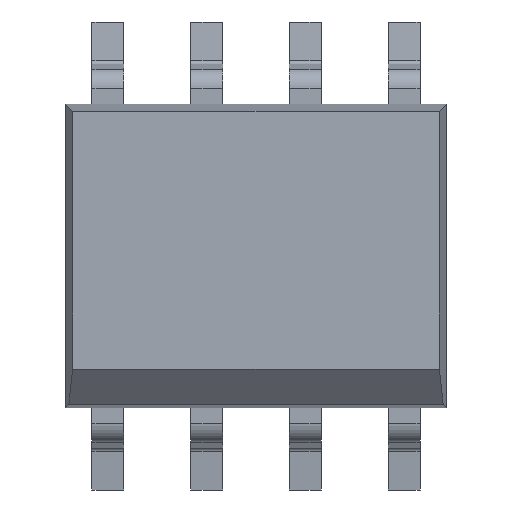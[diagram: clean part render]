
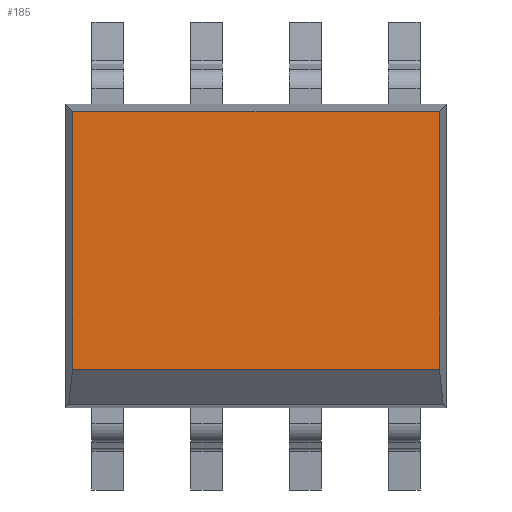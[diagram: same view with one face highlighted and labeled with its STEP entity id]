
A CAD part, top view. The second image highlights one B-rep face of the part: STEP entity #185.
In plain terms, the highlighted planar face has unit normal (0, 0, 1).
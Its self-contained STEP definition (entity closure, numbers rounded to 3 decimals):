
#74 = VERTEX_POINT('',#75);
#75 = CARTESIAN_POINT('',(-2.358,1.858,1.65));
#81 = EDGE_CURVE('',#82,#74,#84,.T.);
#82 = VERTEX_POINT('',#83);
#83 = CARTESIAN_POINT('',(-2.358,-1.458,1.65));
#84 = LINE('',#85,#86);
#85 = CARTESIAN_POINT('',(-2.358,-1.95,1.65));
#86 = VECTOR('',#87,1.);
#87 = DIRECTION('',(0.,1.,0.));
#135 = VERTEX_POINT('',#136);
#136 = CARTESIAN_POINT('',(2.358,-1.458,1.65));
#144 = EDGE_CURVE('',#135,#82,#145,.T.);
#145 = LINE('',#146,#147);
#146 = CARTESIAN_POINT('',(2.358,-1.458,1.65));
#147 = VECTOR('',#148,1.);
#148 = DIRECTION('',(-1.,-0.,-0.));
#185 = ADVANCED_FACE('',(#186),#204,.T.);
#186 = FACE_BOUND('',#187,.T.);
#187 = EDGE_LOOP('',(#188,#189,#190,#198));
#188 = ORIENTED_EDGE('',*,*,#81,.F.);
#189 = ORIENTED_EDGE('',*,*,#144,.F.);
#190 = ORIENTED_EDGE('',*,*,#191,.T.);
#191 = EDGE_CURVE('',#135,#192,#194,.T.);
#192 = VERTEX_POINT('',#193);
#193 = CARTESIAN_POINT('',(2.358,1.858,1.65));
#194 = LINE('',#195,#196);
#195 = CARTESIAN_POINT('',(2.358,-1.95,1.65));
#196 = VECTOR('',#197,1.);
#197 = DIRECTION('',(0.,1.,0.));
#198 = ORIENTED_EDGE('',*,*,#199,.T.);
#199 = EDGE_CURVE('',#192,#74,#200,.T.);
#200 = LINE('',#201,#202);
#201 = CARTESIAN_POINT('',(2.45,1.858,1.65));
#202 = VECTOR('',#203,1.);
#203 = DIRECTION('',(-1.,0.,0.));
#204 = PLANE('',#205);
#205 = AXIS2_PLACEMENT_3D('',#206,#207,#208);
#206 = CARTESIAN_POINT('',(0.,0.,1.65));
#207 = DIRECTION('',(0.,0.,1.));
#208 = DIRECTION('',(1.,0.,0.));
